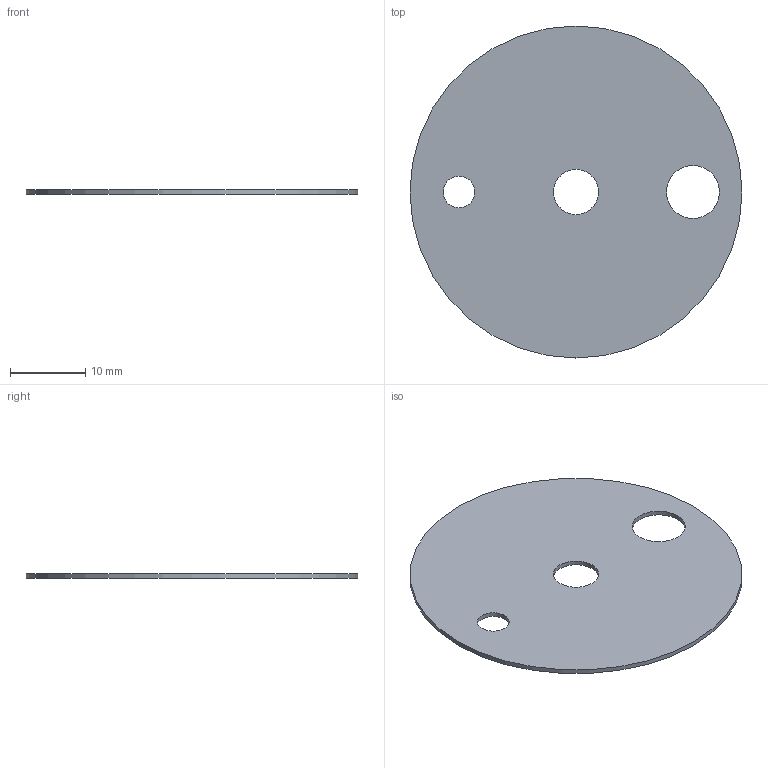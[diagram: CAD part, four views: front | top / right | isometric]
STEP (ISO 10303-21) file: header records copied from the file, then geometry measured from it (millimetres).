
FILE_DESCRIPTION(('Open CASCADE Model'),'2;1');
FILE_NAME('Open CASCADE Shape Model','2026-10-21T10:33:18',('Author'),( 'Open CASCADE'),'Open CASCADE STEP processor 7.9','Open CASCADE 7.9' ,'Unknown');
FILE_SCHEMA(('AUTOMOTIVE_DESIGN { 1 0 10303 214 1 1 1 1 }'));
Length unit declared in the file: millimetre
Products named in the file (1): Open CASCADE STEP translator 7.9 9
Bounding box: 44 x 44 x 0.6 mm (x, y, z)
Volume: 864 mm3; surface area: 2995.2 mm2
Topology: 1 solids, 1 shells, 6 faces, 12 edges, 8 vertices
Faces by surface type: cylinder 4, plane 2
Full cylindrical faces by diameter (mm): 4.2 x1, 6 x1, 7 x1, 44 x1
Entity records: 360 total; most frequent: CARTESIAN_POINT 87, DIRECTION 52, ORIENTED_EDGE 24, PCURVE 24, DEFINITIONAL_REPRESENTATION 24, LINE 20, VECTOR 20, AXIS2_PLACEMENT_3D 15
